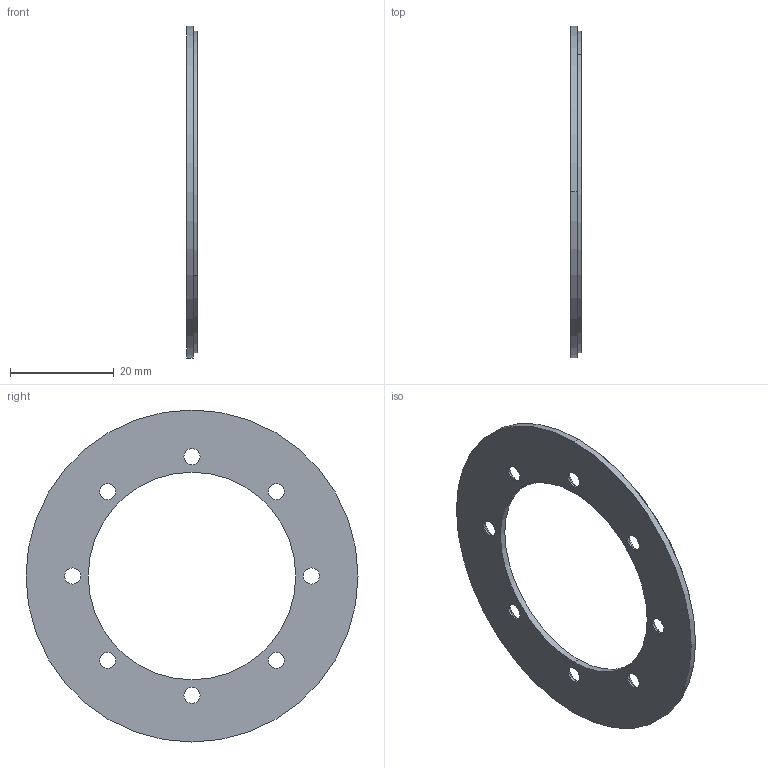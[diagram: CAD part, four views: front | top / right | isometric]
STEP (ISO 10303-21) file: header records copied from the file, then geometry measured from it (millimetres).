
FILE_DESCRIPTION (( 'STEP AP214' ), '1' );
FILE_NAME ('MRA064BC040DSE00.STEP', '2019-07-05T12:21:40', ( '' ), ( '' ), 'SwSTEP 2.0', 'SolidWorks 2016', '' );
FILE_SCHEMA (( 'AUTOMOTIVE_DESIGN' ));
Length unit declared in the file: millimetre
Products named in the file (3): Elastoferrite_OD65-ID53x,9; MRA064BC040DSE00; Prirobnica_OD65-ID40x1,2_Ring
Assembly tree (2 placements, depth 2):
  MRA064BC040DSE00
    Prirobnica_OD65-ID40x1,2_Ring
    Elastoferrite_OD65-ID53x,9
Bounding box: 2 x 64 x 64 mm (x, y, z)
Volume: 2896.9 mm3; surface area: 6169.9 mm2
Topology: 2 solids, 2 shells, 52 faces, 122 edges, 76 vertices
Faces by surface type: cylinder 24, cone 16, plane 12
Entity records: 1652 total; most frequent: DIRECTION 300, CARTESIAN_POINT 255, ORIENTED_EDGE 244, EDGE_CURVE 122, AXIS2_PLACEMENT_3D 121, VERTEX_POINT 76, EDGE_LOOP 74, CIRCLE 64
